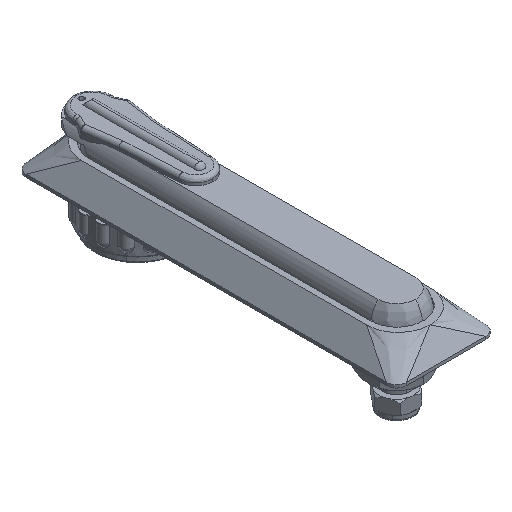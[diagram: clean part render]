
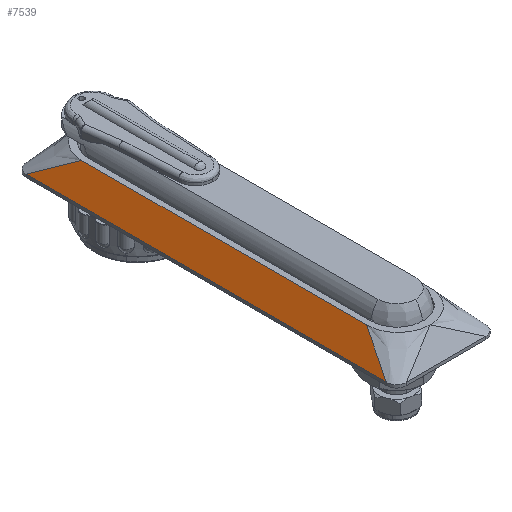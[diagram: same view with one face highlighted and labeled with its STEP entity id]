
A CAD part, isometric view. The second image highlights one B-rep face of the part: STEP entity #7539.
In plain terms, the highlighted planar face has unit normal (-0.774, 0, 0.633) as drawn and (-0.774, 0, -0.633) by its records, which use the part's own axes.
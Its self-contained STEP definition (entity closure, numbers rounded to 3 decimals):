
#3477 = LINE ( 'NONE', #3492, #3489 ) ;
#3478 = CARTESIAN_POINT ( 'NONE',  ( -25., 90.5, 11. ) ) ;
#3489 = VECTOR ( 'NONE', #3491, 1000. ) ;
#3491 = DIRECTION ( 'NONE',  ( 0.379, -0.801, -0.464 ) ) ;
#3492 = CARTESIAN_POINT ( 'NONE',  ( -25., 90.5, 11. ) ) ;
#3538 = CARTESIAN_POINT ( 'NONE',  ( -16., 71.5, 0. ) ) ;
#3574 = CARTESIAN_POINT ( 'NONE',  ( -16., -71.5, 0. ) ) ;
#4064 = CARTESIAN_POINT ( 'NONE',  ( -16., -71.5, 0. ) ) ;
#4068 = LINE ( 'NONE', #4064, #4084 ) ;
#4083 = DIRECTION ( 'NONE',  ( -0.379, -0.801, 0.464 ) ) ;
#4084 = VECTOR ( 'NONE', #4083, 1000. ) ;
#4413 = CARTESIAN_POINT ( 'NONE',  ( -25., -90.5, 11. ) ) ;
#4453 = AXIS2_PLACEMENT_3D ( 'NONE', #4474, #4473, #4472 ) ;
#4454 = PLANE ( 'NONE',  #4453 ) ;
#4462 = FACE_OUTER_BOUND ( 'NONE', #7526, .T. ) ;
#4472 = DIRECTION ( 'NONE',  ( -0.633, 0., 0.774 ) ) ;
#4473 = DIRECTION ( 'NONE',  ( -0.774, 0., -0.633 ) ) ;
#4474 = CARTESIAN_POINT ( 'NONE',  ( -25., -121.913, 11. ) ) ;
#4503 = DIRECTION ( 'NONE',  ( 0., -1., 0. ) ) ;
#4504 = VECTOR ( 'NONE', #4503, 1000. ) ;
#4505 = CARTESIAN_POINT ( 'NONE',  ( -16., -121.913, 0. ) ) ;
#4507 = LINE ( 'NONE', #4505, #4504 ) ;
#4509 = DIRECTION ( 'NONE',  ( 0., 1., 0. ) ) ;
#4510 = VECTOR ( 'NONE', #4509, 1000. ) ;
#4526 = CARTESIAN_POINT ( 'NONE',  ( -25., 90.5, 11. ) ) ;
#4527 = LINE ( 'NONE', #4526, #4510 ) ;
#7312 = ORIENTED_EDGE ( 'NONE', *, *, #7473, .T. ) ;
#7318 = VERTEX_POINT ( 'NONE', #3478 ) ;
#7320 = EDGE_CURVE ( 'NONE', #7318, #7330, #3477, .T. ) ;
#7330 = VERTEX_POINT ( 'NONE', #3538 ) ;
#7335 = VERTEX_POINT ( 'NONE', #3574 ) ;
#7428 = ORIENTED_EDGE ( 'NONE', *, *, #7320, .T. ) ;
#7473 = EDGE_CURVE ( 'NONE', #7335, #7534, #4068, .T. ) ;
#7526 = EDGE_LOOP ( 'NONE', ( #7540, #7312, #7549, #7428 ) ) ;
#7534 = VERTEX_POINT ( 'NONE', #4413 ) ;
#7539 = ADVANCED_FACE ( 'NONE', ( #4462 ), #4454, .T. ) ;
#7540 = ORIENTED_EDGE ( 'NONE', *, *, #7552, .T. ) ;
#7549 = ORIENTED_EDGE ( 'NONE', *, *, #7550, .T. ) ;
#7550 = EDGE_CURVE ( 'NONE', #7534, #7318, #4527, .T. ) ;
#7552 = EDGE_CURVE ( 'NONE', #7330, #7335, #4507, .T. ) ;
